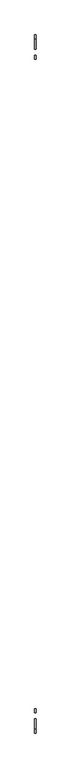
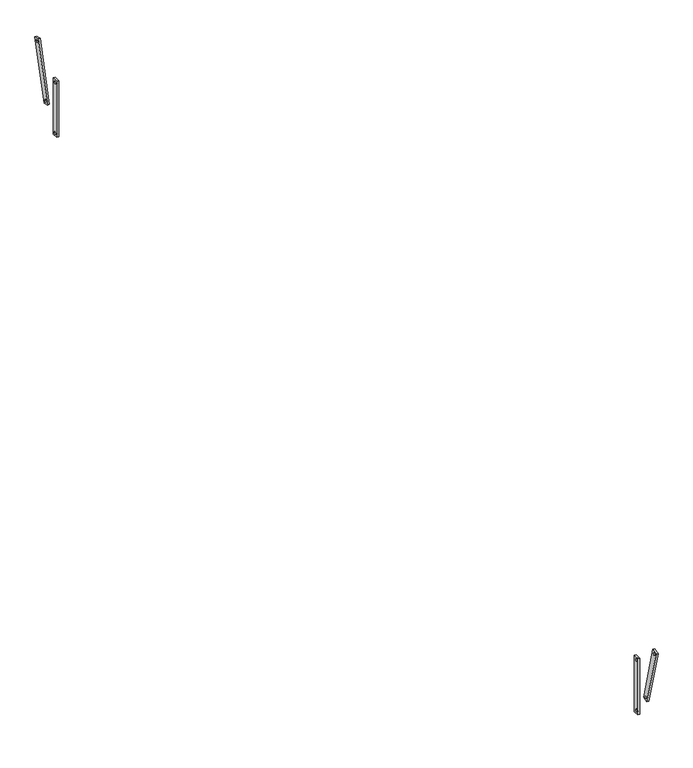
"""IFC4 building model written with IfcOpenShell, lengths in millimetres: proxy geometry, Modelos genéricos 289 : Modelos genéricos 278."""

from ifc_helpers import new_model, si_unit, point, frame, frame_2d, origin, place, context, project, spatial, polyline, circle_curve, trimmed, segment, composite_curve, outline, extrude, source, transform, mapped, element, save


def generic_models_656b8d18(model_context):
    return source(origin(), model_context, "Body", "SweptSolid", [
        extrude(outline(polyline([(5318.6238165, 2800.0), (5318.6238165, 3200.0), (5358.6238165, 3200.0), (5358.6238165, 2800.0), (5318.6238165, 2800.0)]), holes=[composite_curve([segment(trimmed(circle_curve(frame_2d((5338.6238165, 3180.0)), 7.5), [point((5346.1238165, 3180.0))], [point((5331.1238165, 3180.0))], True, "CARTESIAN"), True, "CONTINUOUS"), segment(trimmed(circle_curve(frame_2d((5338.6238165, 3180.0)), 7.5), [point((5331.1238165, 3180.0))], [point((5346.1238165, 3180.0))], True, "CARTESIAN"), True, "CONTINUOUS")], self_intersect=False), composite_curve([segment(trimmed(circle_curve(frame_2d((5338.6238165, 2820.0)), 7.5), [point((5346.1238165, 2820.0))], [point((5331.1238165, 2820.0))], True, "CARTESIAN"), True, "CONTINUOUS"), segment(trimmed(circle_curve(frame_2d((5338.6238165, 2820.0)), 7.5), [point((5331.1238165, 2820.0))], [point((5346.1238165, 2820.0))], True, "CARTESIAN"), True, "CONTINUOUS")], self_intersect=False)]), frame((5560.7472467, 0.0, 0.0), z_axis=(1.0, 0.0, 0.0), x_axis=(0.0, 1.0, 0.0)), (0.0, 0.0, 1.0), 12.7),
        extrude(outline(polyline([(5424.7907615, 2966.5419368), (5533.4947604, 3372.2307838), (5572.1317934, 3361.878022), (5463.4277945, 2956.1891749), (5424.7907615, 2966.5419368)]), holes=[composite_curve([segment(trimmed(circle_curve(frame_2d((5547.636896, 3347.7358864)), 7.5), [point((5554.8813397, 3345.7947435))], [point((5540.3924523, 3349.6770292))], True, "CARTESIAN"), True, "CONTINUOUS"), segment(trimmed(circle_curve(frame_2d((5547.636896, 3347.7358864)), 7.5), [point((5540.3924523, 3349.6770292))], [point((5554.8813397, 3345.7947435))], True, "CARTESIAN"), True, "CONTINUOUS")], self_intersect=False), composite_curve([segment(trimmed(circle_curve(frame_2d((5449.2856589, 2980.6840724)), 7.5), [point((5456.5301026, 2978.7429295))], [point((5442.0412152, 2982.6252152))], True, "CARTESIAN"), True, "CONTINUOUS"), segment(trimmed(circle_curve(frame_2d((5449.2856589, 2980.6840724)), 7.5), [point((5442.0412152, 2982.6252152))], [point((5456.5301026, 2978.7429295))], True, "CARTESIAN"), True, "CONTINUOUS")], self_intersect=False)]), frame((5560.7472467, 0.0, 0.0), z_axis=(1.0, 0.0, 0.0), x_axis=(0.0, 1.0, 0.0)), (0.0, 0.0, 1.0), 12.7),
        extrude(outline(polyline([(-1421.3761835, 2800.0), (-1461.3761835, 2800.0), (-1461.3761835, 3200.0), (-1421.3761835, 3200.0), (-1421.3761835, 2800.0)]), holes=[composite_curve([segment(trimmed(circle_curve(frame_2d((-1441.3761835, 3180.0)), 7.5), [point((-1448.8761835, 3180.0))], [point((-1433.8761835, 3180.0))], True, "CARTESIAN"), True, "CONTINUOUS"), segment(trimmed(circle_curve(frame_2d((-1441.3761835, 3180.0)), 7.5), [point((-1433.8761835, 3180.0))], [point((-1448.8761835, 3180.0))], True, "CARTESIAN"), True, "CONTINUOUS")], self_intersect=False), composite_curve([segment(trimmed(circle_curve(frame_2d((-1441.3761835, 2820.0)), 7.5), [point((-1448.8761835, 2820.0))], [point((-1433.8761835, 2820.0))], True, "CARTESIAN"), True, "CONTINUOUS"), segment(trimmed(circle_curve(frame_2d((-1441.3761835, 2820.0)), 7.5), [point((-1433.8761835, 2820.0))], [point((-1448.8761835, 2820.0))], True, "CARTESIAN"), True, "CONTINUOUS")], self_intersect=False)]), frame((5560.7472467, 0.0, 0.0), z_axis=(1.0, 0.0, 0.0), x_axis=(0.0, 1.0, 0.0)), (0.0, 0.0, 1.0), 12.7),
        extrude(outline(polyline([(-1527.5431285, 2966.5419368), (-1566.1801615, 2956.1891749), (-1674.8841605, 3361.878022), (-1636.2471274, 3372.2307838), (-1527.5431285, 2966.5419368)]), holes=[composite_curve([segment(trimmed(circle_curve(frame_2d((-1650.389263, 3347.7358864)), 7.5), [point((-1657.6337067, 3345.7947435))], [point((-1643.1448193, 3349.6770292))], True, "CARTESIAN"), True, "CONTINUOUS"), segment(trimmed(circle_curve(frame_2d((-1650.389263, 3347.7358864)), 7.5), [point((-1643.1448193, 3349.6770292))], [point((-1657.6337067, 3345.7947435))], True, "CARTESIAN"), True, "CONTINUOUS")], self_intersect=False), composite_curve([segment(trimmed(circle_curve(frame_2d((-1552.0380259, 2980.6840724)), 7.5), [point((-1559.2824696, 2978.7429295))], [point((-1544.7935822, 2982.6252152))], True, "CARTESIAN"), True, "CONTINUOUS"), segment(trimmed(circle_curve(frame_2d((-1552.0380259, 2980.6840724)), 7.5), [point((-1544.7935822, 2982.6252152))], [point((-1559.2824696, 2978.7429295))], True, "CARTESIAN"), True, "CONTINUOUS")], self_intersect=False)]), frame((5560.7472467, 0.0, 0.0), z_axis=(1.0, 0.0, 0.0), x_axis=(0.0, 1.0, 0.0)), (0.0, 0.0, 1.0), 12.7),
    ])


if __name__ == "__main__":
    model = new_model("IFC4")
    model_context = context("Model", 3, world=origin())
    ifc_project = project(units=[si_unit("LENGTHUNIT", "METRE", prefix="MILLI")], contexts=[model_context])
    site = spatial("IfcSite", under=ifc_project)
    building = spatial("IfcBuilding", under=site)
    placement = place(None, origin())
    generic_models_shape = generic_models_656b8d18(model_context)
    element("IfcBuildingElementProxy", 1, Name="Modelos genéricos 289 : Modelos genéricos 278", ObjectType="Modelos genéricos 289 : Modelos genéricos 278", at=placement, inside=building, context=model_context, shape_type="MappedRepresentation", body=[
        mapped(generic_models_shape, transform((0.0, 0.0, 0.0), x_axis=(1.0, 0.0, 0.0), y_axis=(0.0, 1.0, 0.0), z_axis=(0.0, 0.0, 1.0))),
    ])
    save(model, "model.ifc")
